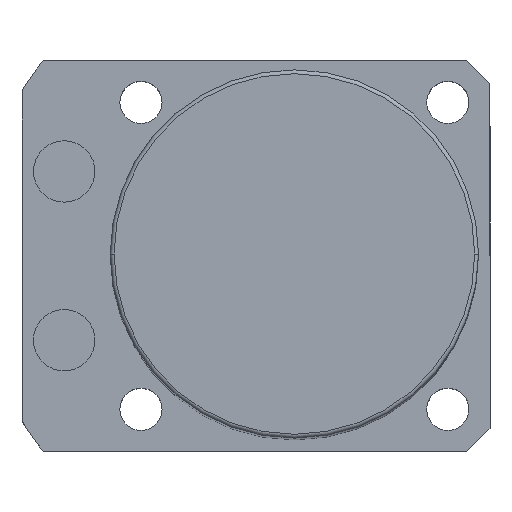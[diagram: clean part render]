
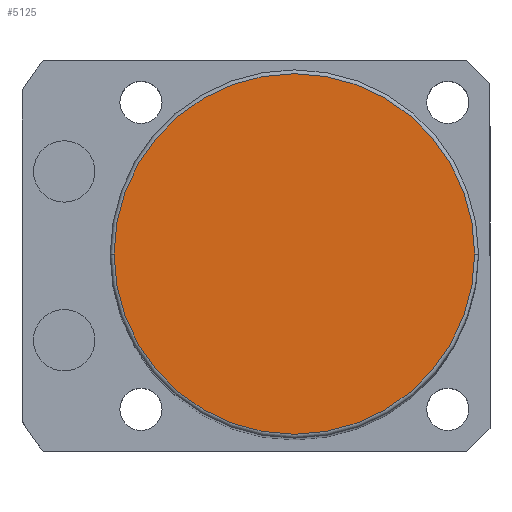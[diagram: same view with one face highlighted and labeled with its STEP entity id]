
A CAD part, top view. The second image highlights one B-rep face of the part: STEP entity #5125.
In plain terms, the highlighted planar face has unit normal (0, 0, 1).
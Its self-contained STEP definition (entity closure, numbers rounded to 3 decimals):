
#175 = DIRECTION ( 'NONE',  ( 1., 0., 0. ) ) ;
#537 = EDGE_CURVE ( 'NONE', #2831, #2664, #3767, .T. ) ;
#709 = EDGE_CURVE ( 'NONE', #2664, #2831, #1222, .T. ) ;
#904 = DIRECTION ( 'NONE',  ( 1., 0., 0. ) ) ;
#1131 = CARTESIAN_POINT ( 'NONE',  ( -23.5, 0., 151. ) ) ;
#1188 = CARTESIAN_POINT ( 'NONE',  ( 0., 0., 151. ) ) ;
#1222 = CIRCLE ( 'NONE', #6256, 23.5 ) ;
#1362 = FACE_OUTER_BOUND ( 'NONE', #3535, .T. ) ;
#1622 = AXIS2_PLACEMENT_3D ( 'NONE', #3332, #5746, #904 ) ;
#1719 = ORIENTED_EDGE ( 'NONE', *, *, #537, .T. ) ;
#1850 = DIRECTION ( 'NONE',  ( 1., 0., 0. ) ) ;
#2238 = ORIENTED_EDGE ( 'NONE', *, *, #709, .T. ) ;
#2664 = VERTEX_POINT ( 'NONE', #1131 ) ;
#2831 = VERTEX_POINT ( 'NONE', #4845 ) ;
#3332 = CARTESIAN_POINT ( 'NONE',  ( 0., 0., 151. ) ) ;
#3535 = EDGE_LOOP ( 'NONE', ( #1719, #2238 ) ) ;
#3767 = CIRCLE ( 'NONE', #4454, 23.5 ) ;
#3784 = DIRECTION ( 'NONE',  ( 0., 0., 1. ) ) ;
#4454 = AXIS2_PLACEMENT_3D ( 'NONE', #1188, #4784, #175 ) ;
#4784 = DIRECTION ( 'NONE',  ( 0., 0., 1. ) ) ;
#4845 = CARTESIAN_POINT ( 'NONE',  ( 23.5, 0., 151. ) ) ;
#4857 = CARTESIAN_POINT ( 'NONE',  ( 0., 0., 151. ) ) ;
#5125 = ADVANCED_FACE ( 'NONE', ( #1362 ), #6347, .T. ) ;
#5746 = DIRECTION ( 'NONE',  ( 0., 0., 1. ) ) ;
#6256 = AXIS2_PLACEMENT_3D ( 'NONE', #4857, #3784, #1850 ) ;
#6347 = PLANE ( 'NONE',  #1622 ) ;
